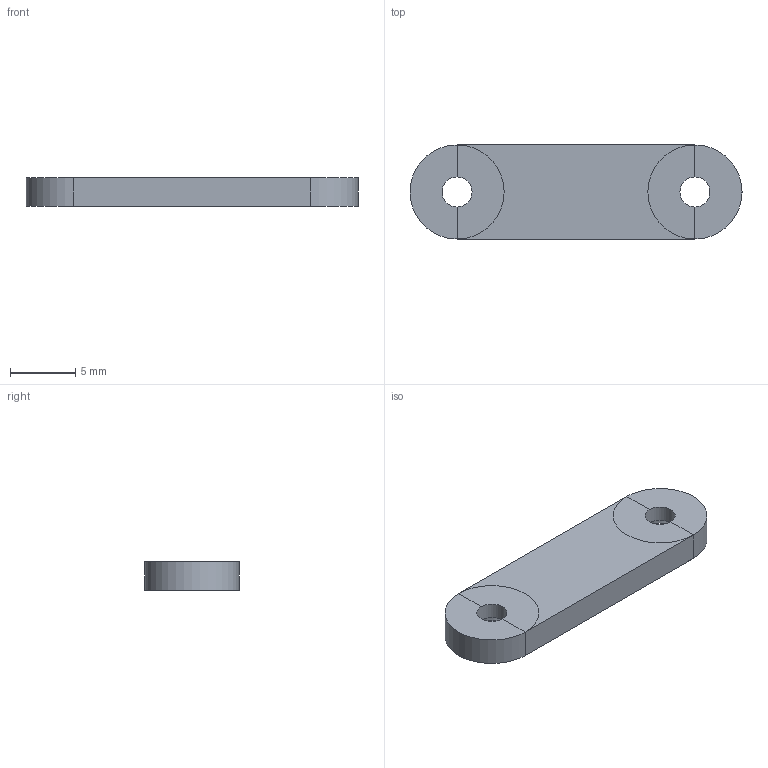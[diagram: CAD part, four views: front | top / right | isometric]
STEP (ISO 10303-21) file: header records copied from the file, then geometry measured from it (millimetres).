
FILE_DESCRIPTION(/* description */ (''),/* implementation_level */ '2;1');
FILE_NAME(/* name */ 'P11.step',/* time_stamp */ '2026-09-15T15:14:47-07:00',/* author */ (''),/* organization */ (''),/* preprocessor_version */ 'ST-DEVELOPER v20.1',/* originating_system */ 'Autodesk Translation Framework v15.8.0.0',/* authorisation */ '');
FILE_SCHEMA (('AUTOMOTIVE_DESIGN { 1 0 10303 214 3 1 1 }'));
Length unit declared in the file: millimetre
Products named in the file (1): 2026-09-15-15-14-47-023
Bounding box: 25.4 x 7.2 x 2.2 mm (x, y, z)
Volume: 351.3 mm3; surface area: 482.8 mm2
Topology: 1 solids, 1 shells, 18 faces, 42 edges, 22 vertices
Faces by surface type: plane 12, cylinder 4, cone 2
Full cylindrical faces by diameter (mm): 2.3 x2
Entity records: 545 total; most frequent: DIRECTION 102, ORIENTED_EDGE 84, CARTESIAN_POINT 83, EDGE_CURVE 42, AXIS2_PLACEMENT_3D 41, CIRCLE 22, VERTEX_POINT 22, LINE 20
